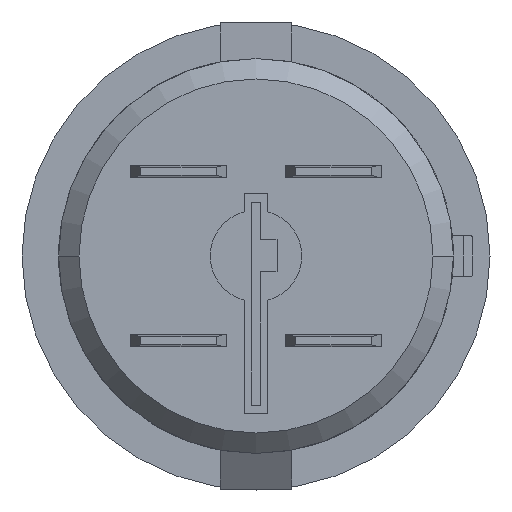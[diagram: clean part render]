
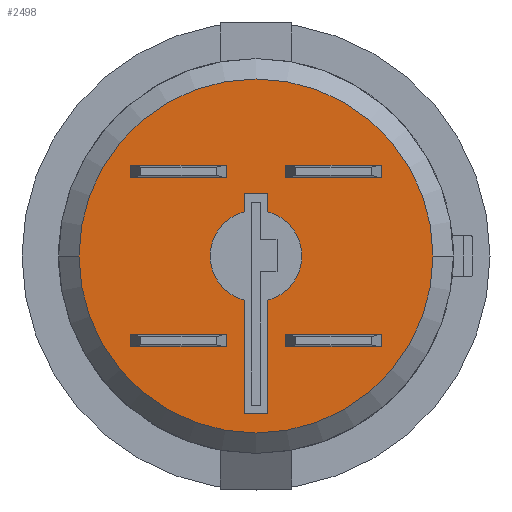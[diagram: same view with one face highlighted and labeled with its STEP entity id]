
A CAD part, front view. The second image highlights one B-rep face of the part: STEP entity #2498.
In plain terms, the highlighted planar face has unit normal (0, -1, 0).
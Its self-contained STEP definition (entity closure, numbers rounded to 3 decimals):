
#1=CARTESIAN_POINT('',(0.,0.,0.));
#2=DIRECTION('',(0.,-1.,0.));
#3=DIRECTION('',(1.,0.,0.));
#4=AXIS2_PLACEMENT_3D('',#1,#2,#3);
#6=CARTESIAN_POINT('',(0.,0.,0.));
#7=DIRECTION('',(0.,-1.,0.));
#8=DIRECTION('',(-1.,0.,0.));
#9=AXIS2_PLACEMENT_3D('',#6,#7,#8);
#11=DIRECTION('',(-1.,0.,0.));
#12=VECTOR('',#11,4.719);
#13=CARTESIAN_POINT('',(6.169,0.,4.462));
#14=LINE('',#13,#12);
#15=DIRECTION('',(0.,0.,-1.));
#16=VECTOR('',#15,0.6);
#17=CARTESIAN_POINT('',(1.451,0.,4.462));
#18=LINE('',#17,#16);
#19=DIRECTION('',(1.,0.,0.));
#20=VECTOR('',#19,4.719);
#21=CARTESIAN_POINT('',(1.451,0.,3.862));
#22=LINE('',#21,#20);
#23=DIRECTION('',(0.,0.,1.));
#24=VECTOR('',#23,0.6);
#25=CARTESIAN_POINT('',(6.169,0.,3.862));
#26=LINE('',#25,#24);
#27=DIRECTION('',(0.,0.,1.));
#28=VECTOR('',#27,0.6);
#29=CARTESIAN_POINT('',(6.169,0.,-4.462));
#30=LINE('',#29,#28);
#31=DIRECTION('',(-1.,0.,0.));
#32=VECTOR('',#31,4.719);
#33=CARTESIAN_POINT('',(6.169,0.,-3.862));
#34=LINE('',#33,#32);
#35=DIRECTION('',(0.,0.,-1.));
#36=VECTOR('',#35,0.6);
#37=CARTESIAN_POINT('',(1.451,0.,-3.862));
#38=LINE('',#37,#36);
#39=DIRECTION('',(1.,0.,0.));
#40=VECTOR('',#39,4.719);
#41=CARTESIAN_POINT('',(1.451,0.,-4.462));
#42=LINE('',#41,#40);
#43=DIRECTION('',(0.,0.,-1.));
#44=VECTOR('',#43,0.6);
#45=CARTESIAN_POINT('',(-6.169,0.,4.462));
#46=LINE('',#45,#44);
#47=DIRECTION('',(1.,0.,0.));
#48=VECTOR('',#47,4.719);
#49=CARTESIAN_POINT('',(-6.169,0.,3.862));
#50=LINE('',#49,#48);
#51=DIRECTION('',(0.,0.,1.));
#52=VECTOR('',#51,0.6);
#53=CARTESIAN_POINT('',(-1.451,0.,3.862));
#54=LINE('',#53,#52);
#55=DIRECTION('',(-1.,0.,0.));
#56=VECTOR('',#55,4.719);
#57=CARTESIAN_POINT('',(-1.451,0.,4.462));
#58=LINE('',#57,#56);
#59=DIRECTION('',(1.,0.,0.));
#60=VECTOR('',#59,4.719);
#61=CARTESIAN_POINT('',(-6.169,0.,-4.462));
#62=LINE('',#61,#60);
#63=DIRECTION('',(0.,0.,1.));
#64=VECTOR('',#63,0.6);
#65=CARTESIAN_POINT('',(-1.451,0.,-4.462));
#66=LINE('',#65,#64);
#67=DIRECTION('',(-1.,0.,0.));
#68=VECTOR('',#67,4.719);
#69=CARTESIAN_POINT('',(-1.451,0.,-3.862));
#70=LINE('',#69,#68);
#71=DIRECTION('',(0.,0.,-1.));
#72=VECTOR('',#71,0.6);
#73=CARTESIAN_POINT('',(-6.169,0.,-3.862));
#74=LINE('',#73,#72);
#75=DIRECTION('',(0.,0.,-1.));
#76=VECTOR('',#75,0.889);
#77=CARTESIAN_POINT('',(-0.578,0.,3.064));
#78=LINE('',#77,#76);
#79=CARTESIAN_POINT('',(0.,0.,0.));
#80=DIRECTION('',(0.,-1.,0.));
#81=DIRECTION('',(-0.257,0.,0.966));
#82=AXIS2_PLACEMENT_3D('',#79,#80,#81);
#84=DIRECTION('',(0.,0.,-1.));
#85=VECTOR('',#84,5.581);
#86=CARTESIAN_POINT('',(-0.578,0.,-2.175));
#87=LINE('',#86,#85);
#88=DIRECTION('',(1.,0.,0.));
#89=VECTOR('',#88,1.155);
#90=CARTESIAN_POINT('',(-0.578,0.,-7.756));
#91=LINE('',#90,#89);
#92=DIRECTION('',(0.,0.,1.));
#93=VECTOR('',#92,5.581);
#94=CARTESIAN_POINT('',(0.578,0.,-7.756));
#95=LINE('',#94,#93);
#96=CARTESIAN_POINT('',(0.,0.,0.));
#97=DIRECTION('',(0.,-1.,0.));
#98=DIRECTION('',(0.257,0.,-0.966));
#99=AXIS2_PLACEMENT_3D('',#96,#97,#98);
#101=DIRECTION('',(0.,0.,1.));
#102=VECTOR('',#101,0.889);
#103=CARTESIAN_POINT('',(0.578,0.,2.175));
#104=LINE('',#103,#102);
#105=DIRECTION('',(-1.,0.,0.));
#106=VECTOR('',#105,1.155);
#107=CARTESIAN_POINT('',(0.578,0.,3.064));
#108=LINE('',#107,#106);
#1861=CARTESIAN_POINT('',(8.7,0.,0.));
#1862=CARTESIAN_POINT('',(-8.7,0.,0.));
#1863=VERTEX_POINT('',#1861);
#1864=VERTEX_POINT('',#1862);
#2085=CARTESIAN_POINT('',(6.169,0.,4.462));
#2086=CARTESIAN_POINT('',(1.451,0.,4.462));
#2087=VERTEX_POINT('',#2085);
#2088=VERTEX_POINT('',#2086);
#2089=CARTESIAN_POINT('',(1.451,0.,3.862));
#2090=VERTEX_POINT('',#2089);
#2091=CARTESIAN_POINT('',(6.169,0.,3.862));
#2092=VERTEX_POINT('',#2091);
#2093=CARTESIAN_POINT('',(6.169,0.,-4.462));
#2094=CARTESIAN_POINT('',(6.169,0.,-3.862));
#2095=VERTEX_POINT('',#2093);
#2096=VERTEX_POINT('',#2094);
#2097=CARTESIAN_POINT('',(1.451,0.,-3.862));
#2098=VERTEX_POINT('',#2097);
#2099=CARTESIAN_POINT('',(1.451,0.,-4.462));
#2100=VERTEX_POINT('',#2099);
#2101=CARTESIAN_POINT('',(-6.169,0.,4.462));
#2102=CARTESIAN_POINT('',(-6.169,0.,3.862));
#2103=VERTEX_POINT('',#2101);
#2104=VERTEX_POINT('',#2102);
#2105=CARTESIAN_POINT('',(-1.451,0.,3.862));
#2106=VERTEX_POINT('',#2105);
#2107=CARTESIAN_POINT('',(-1.451,0.,4.462));
#2108=VERTEX_POINT('',#2107);
#2109=CARTESIAN_POINT('',(-6.169,0.,-4.462));
#2110=CARTESIAN_POINT('',(-1.451,0.,-4.462));
#2111=VERTEX_POINT('',#2109);
#2112=VERTEX_POINT('',#2110);
#2113=CARTESIAN_POINT('',(-1.451,0.,-3.862));
#2114=VERTEX_POINT('',#2113);
#2115=CARTESIAN_POINT('',(-6.169,0.,-3.862));
#2116=VERTEX_POINT('',#2115);
#2277=CARTESIAN_POINT('',(-0.578,0.,3.064));
#2278=CARTESIAN_POINT('',(-0.578,0.,2.175));
#2279=VERTEX_POINT('',#2277);
#2280=VERTEX_POINT('',#2278);
#2281=CARTESIAN_POINT('',(-0.578,0.,-2.175));
#2282=VERTEX_POINT('',#2281);
#2283=CARTESIAN_POINT('',(-0.578,0.,-7.756));
#2284=VERTEX_POINT('',#2283);
#2285=CARTESIAN_POINT('',(0.578,0.,-7.756));
#2286=VERTEX_POINT('',#2285);
#2287=CARTESIAN_POINT('',(0.578,0.,-2.175));
#2288=VERTEX_POINT('',#2287);
#2289=CARTESIAN_POINT('',(0.578,0.,2.175));
#2290=VERTEX_POINT('',#2289);
#2291=CARTESIAN_POINT('',(0.578,0.,3.064));
#2292=VERTEX_POINT('',#2291);
#2429=CARTESIAN_POINT('',(0.,0.,0.));
#2430=DIRECTION('',(0.,1.,0.));
#2431=DIRECTION('',(1.,0.,0.));
#2432=AXIS2_PLACEMENT_3D('',#2429,#2430,#2431);
#2433=PLANE('',#2432);
#2435=ORIENTED_EDGE('',*,*,#2434,.F.);
#2437=ORIENTED_EDGE('',*,*,#2436,.F.);
#2438=EDGE_LOOP('',(#2435,#2437));
#2439=FACE_OUTER_BOUND('',#2438,.F.);
#2441=ORIENTED_EDGE('',*,*,#2440,.T.);
#2443=ORIENTED_EDGE('',*,*,#2442,.T.);
#2445=ORIENTED_EDGE('',*,*,#2444,.T.);
#2447=ORIENTED_EDGE('',*,*,#2446,.T.);
#2448=EDGE_LOOP('',(#2441,#2443,#2445,#2447));
#2449=FACE_BOUND('',#2448,.F.);
#2451=ORIENTED_EDGE('',*,*,#2450,.T.);
#2453=ORIENTED_EDGE('',*,*,#2452,.T.);
#2455=ORIENTED_EDGE('',*,*,#2454,.T.);
#2457=ORIENTED_EDGE('',*,*,#2456,.T.);
#2458=EDGE_LOOP('',(#2451,#2453,#2455,#2457));
#2459=FACE_BOUND('',#2458,.F.);
#2461=ORIENTED_EDGE('',*,*,#2460,.T.);
#2463=ORIENTED_EDGE('',*,*,#2462,.T.);
#2465=ORIENTED_EDGE('',*,*,#2464,.T.);
#2467=ORIENTED_EDGE('',*,*,#2466,.T.);
#2468=EDGE_LOOP('',(#2461,#2463,#2465,#2467));
#2469=FACE_BOUND('',#2468,.F.);
#2471=ORIENTED_EDGE('',*,*,#2470,.T.);
#2473=ORIENTED_EDGE('',*,*,#2472,.T.);
#2475=ORIENTED_EDGE('',*,*,#2474,.T.);
#2477=ORIENTED_EDGE('',*,*,#2476,.T.);
#2478=EDGE_LOOP('',(#2471,#2473,#2475,#2477));
#2479=FACE_BOUND('',#2478,.F.);
#2481=ORIENTED_EDGE('',*,*,#2480,.T.);
#2483=ORIENTED_EDGE('',*,*,#2482,.T.);
#2485=ORIENTED_EDGE('',*,*,#2484,.T.);
#2487=ORIENTED_EDGE('',*,*,#2486,.T.);
#2489=ORIENTED_EDGE('',*,*,#2488,.T.);
#2491=ORIENTED_EDGE('',*,*,#2490,.T.);
#2493=ORIENTED_EDGE('',*,*,#2492,.T.);
#2495=ORIENTED_EDGE('',*,*,#2494,.T.);
#2496=EDGE_LOOP('',(#2481,#2483,#2485,#2487,#2489,#2491,#2493,#2495));
#2497=FACE_BOUND('',#2496,.F.);
#2498=ADVANCED_FACE('',(#2439,#2449,#2459,#2469,#2479,#2497),#2433,.F.);
#5=CIRCLE('',#4,8.7);
#10=CIRCLE('',#9,8.7);
#83=CIRCLE('',#82,2.25);
#100=CIRCLE('',#99,2.25);
#2434=EDGE_CURVE('',#1863,#1864,#5,.T.);
#2436=EDGE_CURVE('',#1864,#1863,#10,.T.);
#2440=EDGE_CURVE('',#2087,#2088,#14,.T.);
#2442=EDGE_CURVE('',#2088,#2090,#18,.T.);
#2444=EDGE_CURVE('',#2090,#2092,#22,.T.);
#2446=EDGE_CURVE('',#2092,#2087,#26,.T.);
#2450=EDGE_CURVE('',#2095,#2096,#30,.T.);
#2452=EDGE_CURVE('',#2096,#2098,#34,.T.);
#2454=EDGE_CURVE('',#2098,#2100,#38,.T.);
#2456=EDGE_CURVE('',#2100,#2095,#42,.T.);
#2460=EDGE_CURVE('',#2103,#2104,#46,.T.);
#2462=EDGE_CURVE('',#2104,#2106,#50,.T.);
#2464=EDGE_CURVE('',#2106,#2108,#54,.T.);
#2466=EDGE_CURVE('',#2108,#2103,#58,.T.);
#2470=EDGE_CURVE('',#2111,#2112,#62,.T.);
#2472=EDGE_CURVE('',#2112,#2114,#66,.T.);
#2474=EDGE_CURVE('',#2114,#2116,#70,.T.);
#2476=EDGE_CURVE('',#2116,#2111,#74,.T.);
#2480=EDGE_CURVE('',#2279,#2280,#78,.T.);
#2482=EDGE_CURVE('',#2280,#2282,#83,.T.);
#2484=EDGE_CURVE('',#2282,#2284,#87,.T.);
#2486=EDGE_CURVE('',#2284,#2286,#91,.T.);
#2488=EDGE_CURVE('',#2286,#2288,#95,.T.);
#2490=EDGE_CURVE('',#2288,#2290,#100,.T.);
#2492=EDGE_CURVE('',#2290,#2292,#104,.T.);
#2494=EDGE_CURVE('',#2292,#2279,#108,.T.);
